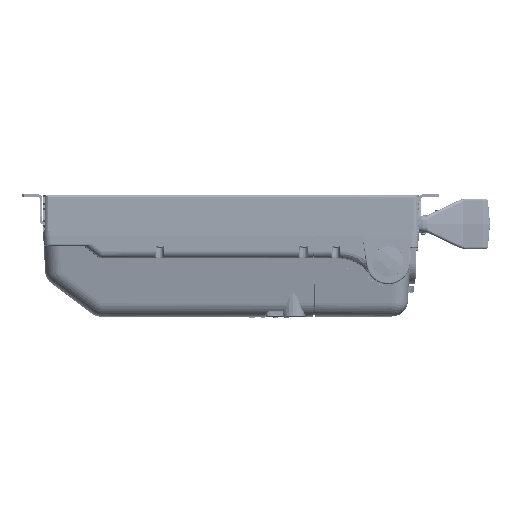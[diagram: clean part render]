
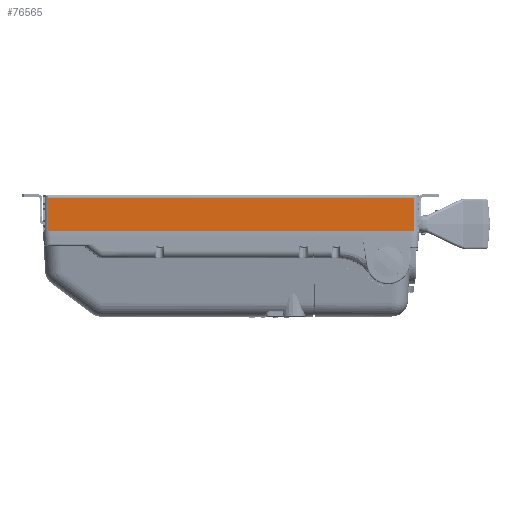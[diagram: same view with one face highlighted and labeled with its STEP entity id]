
A CAD part, left-side view. The second image highlights one B-rep face of the part: STEP entity #76565.
In plain terms, the highlighted planar face has unit normal (-1, 0, 0).
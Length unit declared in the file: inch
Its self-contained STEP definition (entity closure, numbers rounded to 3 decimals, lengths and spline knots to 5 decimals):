
#6564 = ORIENTED_EDGE ( 'NONE', *, *, #143997, .T. ) ;
#6615 = CARTESIAN_POINT ( 'NONE',  ( -4.375, -11.46999, 0. ) ) ;
#11557 = ORIENTED_EDGE ( 'NONE', *, *, #138885, .F. ) ;
#18984 = PLANE ( 'NONE',  #64638 ) ;
#19619 = CARTESIAN_POINT ( 'NONE',  ( -4.375, -9.31, 0.22 ) ) ;
#19757 = DIRECTION ( 'NONE',  ( 0., 0., -1. ) ) ;
#23134 = ORIENTED_EDGE ( 'NONE', *, *, #154313, .T. ) ;
#24877 = VECTOR ( 'NONE', #47758, 39.37008 ) ;
#31444 = DIRECTION ( 'NONE',  ( 0., 0., 1. ) ) ;
#42383 = CARTESIAN_POINT ( 'NONE',  ( -4.375, 8.99583, 0.22 ) ) ;
#43779 = LINE ( 'NONE', #81227, #138488 ) ;
#47758 = DIRECTION ( 'NONE',  ( 0., 0., 1. ) ) ;
#48490 = VERTEX_POINT ( 'NONE', #42383 ) ;
#54368 = CARTESIAN_POINT ( 'NONE',  ( -4.375, -9.05583, 1.86 ) ) ;
#54619 = EDGE_CURVE ( 'NONE', #48490, #120767, #123422, .T. ) ;
#64638 = AXIS2_PLACEMENT_3D ( 'NONE', #6615, #117339, #31444 ) ;
#69196 = DIRECTION ( 'NONE',  ( 0., -1., 0. ) ) ;
#73876 = VECTOR ( 'NONE', #77333, 39.37008 ) ;
#76565 = ADVANCED_FACE ( 'NONE', ( #148743 ), #18984, .T. ) ;
#77333 = DIRECTION ( 'NONE',  ( 0., 1., 0. ) ) ;
#78447 = EDGE_LOOP ( 'NONE', ( #11557, #23134, #118055, #6564 ) ) ;
#81227 = CARTESIAN_POINT ( 'NONE',  ( -4.375, -9.05583, 2. ) ) ;
#82342 = VERTEX_POINT ( 'NONE', #93601 ) ;
#89704 = CARTESIAN_POINT ( 'NONE',  ( -4.375, -11.46999, 1.86 ) ) ;
#93601 = CARTESIAN_POINT ( 'NONE',  ( -4.375, -9.05583, 0.22 ) ) ;
#97782 = VERTEX_POINT ( 'NONE', #54368 ) ;
#104435 = VECTOR ( 'NONE', #69196, 39.37008 ) ;
#117339 = DIRECTION ( 'NONE',  ( -1., 0., 0. ) ) ;
#118055 = ORIENTED_EDGE ( 'NONE', *, *, #54619, .F. ) ;
#120767 = VERTEX_POINT ( 'NONE', #128796 ) ;
#121789 = CARTESIAN_POINT ( 'NONE',  ( -4.375, 8.99583, 2. ) ) ;
#123422 = LINE ( 'NONE', #121789, #24877 ) ;
#128796 = CARTESIAN_POINT ( 'NONE',  ( -4.375, 8.99583, 1.86 ) ) ;
#137279 = LINE ( 'NONE', #19619, #104435 ) ;
#138488 = VECTOR ( 'NONE', #19757, 39.37008 ) ;
#138885 = EDGE_CURVE ( 'NONE', #97782, #82342, #43779, .T. ) ;
#143544 = LINE ( 'NONE', #89704, #73876 ) ;
#143997 = EDGE_CURVE ( 'NONE', #48490, #82342, #137279, .T. ) ;
#148743 = FACE_OUTER_BOUND ( 'NONE', #78447, .T. ) ;
#154313 = EDGE_CURVE ( 'NONE', #97782, #120767, #143544, .T. ) ;
